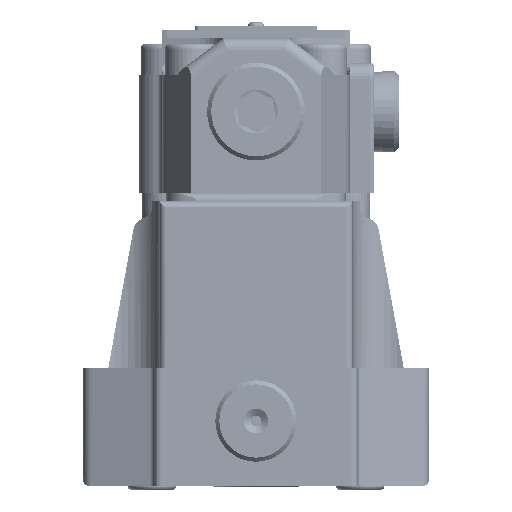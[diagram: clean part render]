
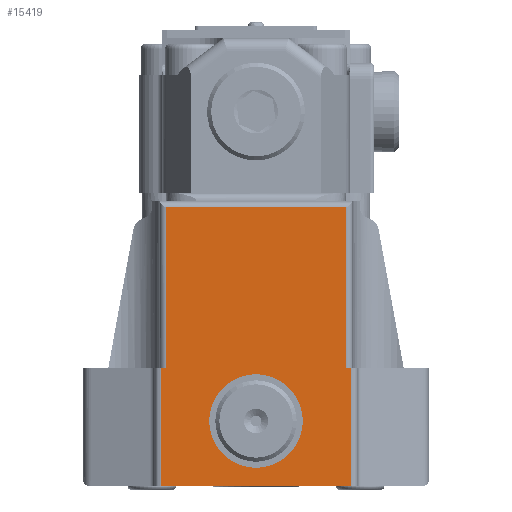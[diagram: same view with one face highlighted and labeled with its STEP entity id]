
A CAD part, left-side view. The second image highlights one B-rep face of the part: STEP entity #15419.
In plain terms, the highlighted planar face has unit normal (-1, 0, 0).
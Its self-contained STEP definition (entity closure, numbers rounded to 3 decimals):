
#2868=PLANE('',#18761);
#3233=CIRCLE('',#18760,11.5);
#4235=EDGE_LOOP('',(#8336));
#4236=EDGE_LOOP('',(#8337,#8338,#8339,#8340,#8341,#8342,#8343,#8344));
#8336=ORIENTED_EDGE('',*,*,#11204,.F.);
#8337=ORIENTED_EDGE('',*,*,#11205,.F.);
#8338=ORIENTED_EDGE('',*,*,#11206,.F.);
#8339=ORIENTED_EDGE('',*,*,#11207,.T.);
#8340=ORIENTED_EDGE('',*,*,#11185,.T.);
#8341=ORIENTED_EDGE('',*,*,#11208,.T.);
#8342=ORIENTED_EDGE('',*,*,#11036,.F.);
#8343=ORIENTED_EDGE('',*,*,#11203,.F.);
#8344=ORIENTED_EDGE('',*,*,#11166,.T.);
#11036=EDGE_CURVE('',#17336,#17337,#12282,.T.);
#11166=EDGE_CURVE('',#17451,#17450,#12346,.T.);
#11185=EDGE_CURVE('',#17469,#17468,#12355,.T.);
#11203=EDGE_CURVE('',#17451,#17336,#12371,.T.);
#11204=EDGE_CURVE('',#17471,#17471,#3233,.T.);
#11205=EDGE_CURVE('',#17472,#17450,#12372,.T.);
#11206=EDGE_CURVE('',#17473,#17472,#12373,.T.);
#11207=EDGE_CURVE('',#17473,#17469,#12374,.T.);
#11208=EDGE_CURVE('',#17468,#17337,#12375,.T.);
#12282=LINE('',#61778,#13190);
#12346=LINE('',#62299,#13254);
#12355=LINE('',#62337,#13263);
#12371=LINE('',#62368,#13279);
#12372=LINE('',#62372,#13280);
#12373=LINE('',#62374,#13281);
#12374=LINE('',#62376,#13282);
#12375=LINE('',#62377,#13283);
#13190=VECTOR('',#21666,1.);
#13254=VECTOR('',#21864,1.);
#13263=VECTOR('',#21895,1.);
#13279=VECTOR('',#21937,1.);
#13280=VECTOR('',#21942,1.);
#13281=VECTOR('',#21943,1.);
#13282=VECTOR('',#21944,1.);
#13283=VECTOR('',#21945,1.);
#15419=ADVANCED_FACE('',(#15947,#15948),#2868,.T.);
#15947=FACE_BOUND('',#4235,.T.);
#15948=FACE_BOUND('',#4236,.T.);
#17336=VERTEX_POINT('',#61777);
#17337=VERTEX_POINT('',#61779);
#17450=VERTEX_POINT('',#62298);
#17451=VERTEX_POINT('',#62300);
#17468=VERTEX_POINT('',#62336);
#17469=VERTEX_POINT('',#62338);
#17471=VERTEX_POINT('',#62371);
#17472=VERTEX_POINT('',#62373);
#17473=VERTEX_POINT('',#62375);
#18760=AXIS2_PLACEMENT_3D('',#62370,#21940,#21941);
#18761=AXIS2_PLACEMENT_3D('',#62378,#21946,#21947);
#21666=DIRECTION('',(0.,1.,0.));
#21864=DIRECTION('',(0.,1.,0.));
#21895=DIRECTION('',(0.,1.,0.));
#21937=DIRECTION('',(0.,0.,-1.));
#21940=DIRECTION('',(-1.,0.,0.));
#21941=DIRECTION('',(0.,0.,1.));
#21942=DIRECTION('',(0.,0.,-1.));
#21943=DIRECTION('',(0.,-1.,0.));
#21944=DIRECTION('',(0.,0.,-1.));
#21945=DIRECTION('',(0.,0.,-1.));
#21946=DIRECTION('',(-1.,0.,0.));
#21947=DIRECTION('',(0.,0.,-1.));
#61777=CARTESIAN_POINT('',(-740.76,-80.332,18.));
#61778=CARTESIAN_POINT('',(-740.76,-80.332,18.));
#61779=CARTESIAN_POINT('',(-740.76,-33.532,18.));
#62298=CARTESIAN_POINT('',(-740.76,-79.009,47.));
#62299=CARTESIAN_POINT('',(-740.76,-80.332,47.));
#62300=CARTESIAN_POINT('',(-740.76,-80.332,47.));
#62336=CARTESIAN_POINT('',(-740.76,-33.532,47.));
#62337=CARTESIAN_POINT('',(-740.76,-80.332,47.));
#62338=CARTESIAN_POINT('',(-740.76,-34.855,47.));
#62368=CARTESIAN_POINT('',(-740.76,-80.332,90.));
#62370=CARTESIAN_POINT('',(-740.76,-56.932,34.));
#62371=CARTESIAN_POINT('',(-740.76,-56.932,45.5));
#62372=CARTESIAN_POINT('',(-740.76,-79.009,90.));
#62373=CARTESIAN_POINT('',(-740.76,-79.009,86.52));
#62374=CARTESIAN_POINT('',(-740.76,66.288,86.52));
#62375=CARTESIAN_POINT('',(-740.76,-34.855,86.52));
#62376=CARTESIAN_POINT('',(-740.76,-34.855,90.));
#62377=CARTESIAN_POINT('',(-740.76,-33.532,90.));
#62378=CARTESIAN_POINT('',(-740.76,-80.332,90.));
